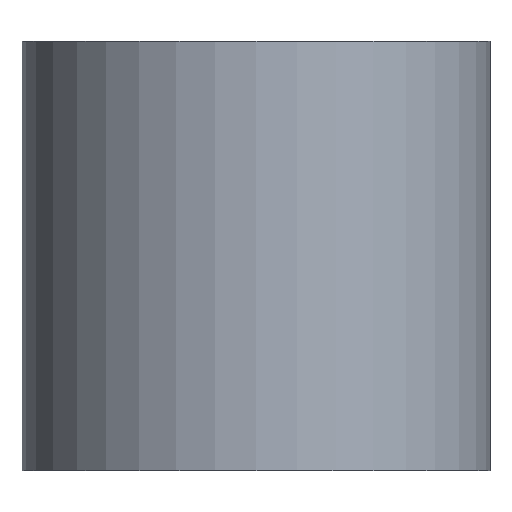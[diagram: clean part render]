
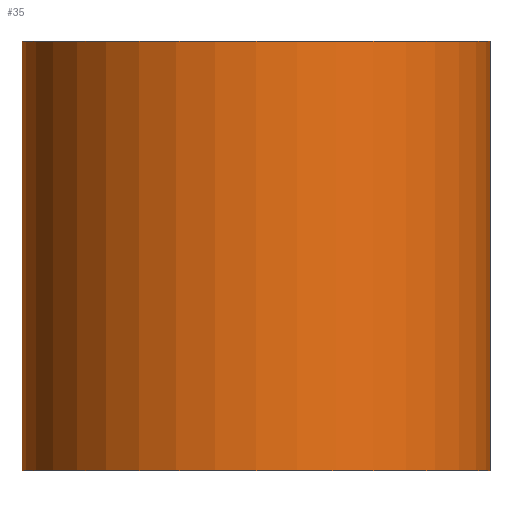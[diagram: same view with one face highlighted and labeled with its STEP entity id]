
A CAD part, front view. The second image highlights one B-rep face of the part: STEP entity #35.
In plain terms, the highlighted cylindrical face has radius 12 mm (diameter 24 mm), a full revolution.
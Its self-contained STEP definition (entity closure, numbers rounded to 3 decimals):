
#35 = ADVANCED_FACE('',(#36),#49,.T.);
#36 = FACE_BOUND('',#37,.T.);
#37 = EDGE_LOOP('',(#38,#72,#95,#122));
#38 = ORIENTED_EDGE('',*,*,#39,.F.);
#39 = EDGE_CURVE('',#40,#40,#42,.T.);
#40 = VERTEX_POINT('',#41);
#41 = CARTESIAN_POINT('',(12.,0.,22.));
#42 = SURFACE_CURVE('',#43,(#48,#60),.PCURVE_S1.);
#43 = CIRCLE('',#44,12.);
#44 = AXIS2_PLACEMENT_3D('',#45,#46,#47);
#45 = CARTESIAN_POINT('',(0.,0.,22.));
#46 = DIRECTION('',(0.,0.,1.));
#47 = DIRECTION('',(1.,0.,-0.));
#48 = PCURVE('',#49,#54);
#49 = CYLINDRICAL_SURFACE('',#50,12.);
#50 = AXIS2_PLACEMENT_3D('',#51,#52,#53);
#51 = CARTESIAN_POINT('',(0.,0.,0.));
#52 = DIRECTION('',(0.,0.,1.));
#53 = DIRECTION('',(1.,0.,-0.));
#54 = DEFINITIONAL_REPRESENTATION('',(#55),#59);
#55 = LINE('',#56,#57);
#56 = CARTESIAN_POINT('',(0.,22.));
#57 = VECTOR('',#58,1.);
#58 = DIRECTION('',(1.,0.));
#59 = ( GEOMETRIC_REPRESENTATION_CONTEXT(2) 
PARAMETRIC_REPRESENTATION_CONTEXT() REPRESENTATION_CONTEXT('2D SPACE',''
  ) );
#60 = PCURVE('',#61,#66);
#61 = PLANE('',#62);
#62 = AXIS2_PLACEMENT_3D('',#63,#64,#65);
#63 = CARTESIAN_POINT('',(0.,0.,22.));
#64 = DIRECTION('',(0.,0.,1.));
#65 = DIRECTION('',(1.,0.,-0.));
#66 = DEFINITIONAL_REPRESENTATION('',(#67),#71);
#67 = CIRCLE('',#68,12.);
#68 = AXIS2_PLACEMENT_2D('',#69,#70);
#69 = CARTESIAN_POINT('',(0.,0.));
#70 = DIRECTION('',(1.,0.));
#71 = ( GEOMETRIC_REPRESENTATION_CONTEXT(2) 
PARAMETRIC_REPRESENTATION_CONTEXT() REPRESENTATION_CONTEXT('2D SPACE',''
  ) );
#72 = ORIENTED_EDGE('',*,*,#73,.F.);
#73 = EDGE_CURVE('',#74,#40,#76,.T.);
#74 = VERTEX_POINT('',#75);
#75 = CARTESIAN_POINT('',(12.,0.,0.));
#76 = SEAM_CURVE('',#77,(#81,#88),.PCURVE_S1.);
#77 = LINE('',#78,#79);
#78 = CARTESIAN_POINT('',(12.,0.,0.));
#79 = VECTOR('',#80,1.);
#80 = DIRECTION('',(0.,0.,1.));
#81 = PCURVE('',#49,#82);
#82 = DEFINITIONAL_REPRESENTATION('',(#83),#87);
#83 = LINE('',#84,#85);
#84 = CARTESIAN_POINT('',(6.283,-0.));
#85 = VECTOR('',#86,1.);
#86 = DIRECTION('',(0.,1.));
#87 = ( GEOMETRIC_REPRESENTATION_CONTEXT(2) 
PARAMETRIC_REPRESENTATION_CONTEXT() REPRESENTATION_CONTEXT('2D SPACE',''
  ) );
#88 = PCURVE('',#49,#89);
#89 = DEFINITIONAL_REPRESENTATION('',(#90),#94);
#90 = LINE('',#91,#92);
#91 = CARTESIAN_POINT('',(0.,-0.));
#92 = VECTOR('',#93,1.);
#93 = DIRECTION('',(0.,1.));
#94 = ( GEOMETRIC_REPRESENTATION_CONTEXT(2) 
PARAMETRIC_REPRESENTATION_CONTEXT() REPRESENTATION_CONTEXT('2D SPACE',''
  ) );
#95 = ORIENTED_EDGE('',*,*,#96,.T.);
#96 = EDGE_CURVE('',#74,#74,#97,.T.);
#97 = SURFACE_CURVE('',#98,(#103,#110),.PCURVE_S1.);
#98 = CIRCLE('',#99,12.);
#99 = AXIS2_PLACEMENT_3D('',#100,#101,#102);
#100 = CARTESIAN_POINT('',(0.,0.,0.));
#101 = DIRECTION('',(0.,0.,1.));
#102 = DIRECTION('',(1.,0.,-0.));
#103 = PCURVE('',#49,#104);
#104 = DEFINITIONAL_REPRESENTATION('',(#105),#109);
#105 = LINE('',#106,#107);
#106 = CARTESIAN_POINT('',(0.,0.));
#107 = VECTOR('',#108,1.);
#108 = DIRECTION('',(1.,0.));
#109 = ( GEOMETRIC_REPRESENTATION_CONTEXT(2) 
PARAMETRIC_REPRESENTATION_CONTEXT() REPRESENTATION_CONTEXT('2D SPACE',''
  ) );
#110 = PCURVE('',#111,#116);
#111 = PLANE('',#112);
#112 = AXIS2_PLACEMENT_3D('',#113,#114,#115);
#113 = CARTESIAN_POINT('',(0.,0.,0.));
#114 = DIRECTION('',(0.,0.,1.));
#115 = DIRECTION('',(1.,0.,-0.));
#116 = DEFINITIONAL_REPRESENTATION('',(#117),#121);
#117 = CIRCLE('',#118,12.);
#118 = AXIS2_PLACEMENT_2D('',#119,#120);
#119 = CARTESIAN_POINT('',(0.,0.));
#120 = DIRECTION('',(1.,0.));
#121 = ( GEOMETRIC_REPRESENTATION_CONTEXT(2) 
PARAMETRIC_REPRESENTATION_CONTEXT() REPRESENTATION_CONTEXT('2D SPACE',''
  ) );
#122 = ORIENTED_EDGE('',*,*,#73,.T.);
